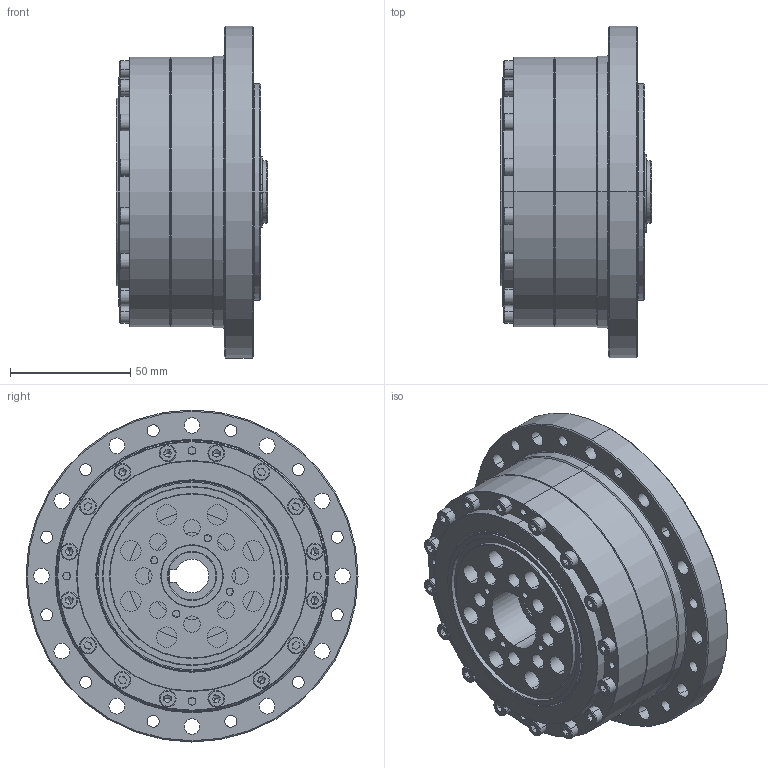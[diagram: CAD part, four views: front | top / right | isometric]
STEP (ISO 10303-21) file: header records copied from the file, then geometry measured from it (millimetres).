
FILE_DESCRIPTION (( 'STEP AP203' ), '1' );
FILE_NAME ('BCSG-32-XXX-U-¢ò.STEP', '2019-01-15T03:36:55', ( 'User' ), ( 'China' ), 'SwSTEP 2.0', 'SolidWorks 2015', '' );
FILE_SCHEMA (( 'CONFIG_CONTROL_DESIGN' ));
Length unit declared in the file: millimetre
Products named in the file (1): BCSG-32-XXX-U-ｊ
Bounding box: 62.99 x 138 x 138 mm (x, y, z)
Surface area: 97913.5 mm2 (no closed solid volume)
Topology: 0 solids, 34 shells, 497 faces, 1591 edges, 1039 vertices
Faces by surface type: cylinder 190, plane 156, cone 88, sphere 40, torus 21, bspline 2
Entity records: 17248 total; most frequent: CARTESIAN_POINT 3544, DIRECTION 3006, ORIENTED_EDGE 2568, EDGE_CURVE 1471, AXIS2_PLACEMENT_3D 1181, VERTEX_POINT 979, CIRCLE 685, VECTOR 644
